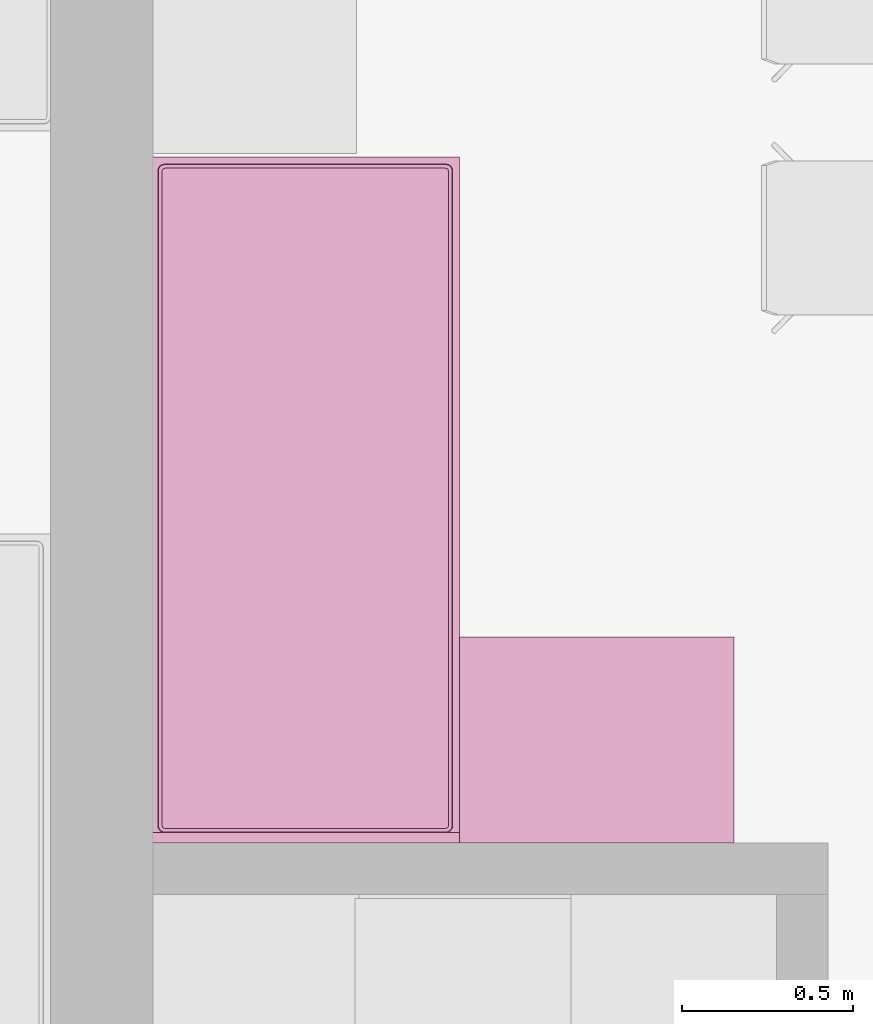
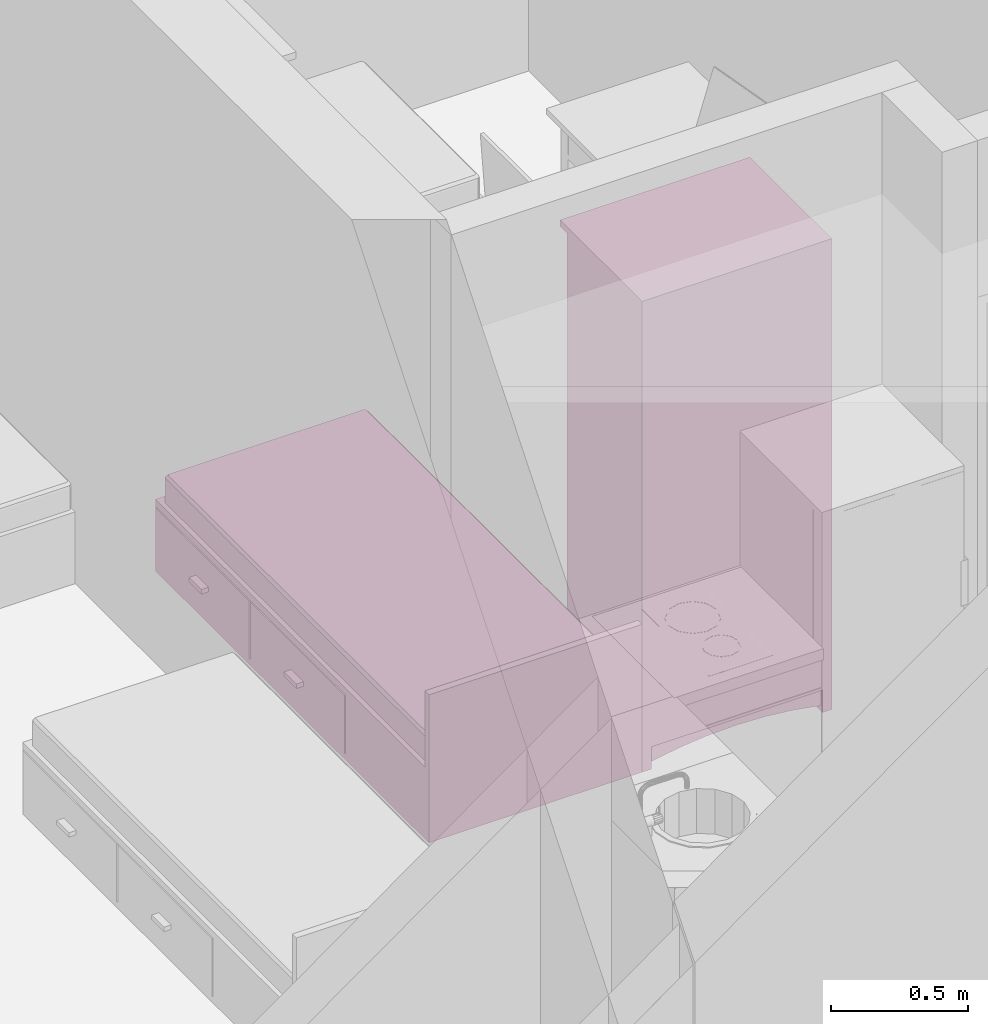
# One storey, part 71 of 165: 2 furnishings.
"""IFC2X3 building model written with IfcOpenShell, lengths in millimetres."""

import ifcopenshell
import ifcopenshell.guid

model = None  # the IFC model being written
_history = None  # IfcOwnerHistory: only IFC2X3 demands one
_inside = {}  # id of a spatial element -> (the spatial element, [elements in it])
_under = {}  # id of a project, library or spatial element -> (it, [spatial elements below it])
_declared = {}  # id of a project -> (the project, [libraries it declares])
_typed = {}  # id of a type object -> (the type object, [elements of that type])
_made_of = {}  # id of a material, layer set ... -> (it, [elements and type objects made of it])


def new_model(schema):
    """Start an empty IFC model of exactly this schema.

    Asked for "IFC4X3", IfcOpenShell would pick the latest addendum, in which some entities
    have other attributes; the version numbers below select the first issue.
    IFC2X3 requires an IfcOwnerHistory on every rooted entity: one is made here for all.
    """
    global model, _history
    if schema == "IFC4X3":
        model = ifcopenshell.file(schema_version=(4, 3, 0, 0))
    else:
        model = ifcopenshell.file(schema=schema)
    _inside.clear()
    _under.clear()
    _declared.clear()
    _typed.clear()
    _made_of.clear()
    _history = None
    if model.schema == "IFC2X3":
        org = make("IfcOrganization", Name="unknown")
        user = make(
            "IfcPersonAndOrganization",
            ThePerson=make("IfcPerson", FamilyName="unknown"),
            TheOrganization=org,
        )
        app = make(
            "IfcApplication",
            ApplicationDeveloper=org,
            Version="unknown",
            ApplicationFullName="unknown",
            ApplicationIdentifier="unknown",
        )
        _history = make(
            "IfcOwnerHistory",
            OwningUser=user,
            OwningApplication=app,
            ChangeAction="ADDED",
            CreationDate=0,
        )
    return model


def make(cls, **values):
    """One entity of the class cls with the attributes given. An attribute that is None is left unset."""
    return model.create_entity(
        cls, **{name: value for name, value in values.items() if value is not None}
    )


def entity(cls, *values):
    """Any entity or typed value of the class cls, its attributes in the order of the schema. None: left unset."""
    e = model.create_entity(cls)
    for i, value in enumerate(values):
        if value is not None:
            e[i] = value
    return e


def rooted(cls, **values):
    """An entity with a GlobalId (a new one), such as an element, a storey or a relation."""
    return make(cls, GlobalId=ifcopenshell.guid.new(), OwnerHistory=_history, **values)


def si_unit(unit_type, name, prefix=None):
    """IfcSIUnit, for example si_unit("LENGTHUNIT", "METRE", prefix="MILLI")."""
    return make("IfcSIUnit", UnitType=unit_type, Prefix=prefix, Name=name)


def converted_unit(unit_type, name, factor, base, dimensions=None, offset=None):
    """IfcConversionBasedUnit, such as the inch: factor (a typed value) times the base unit."""
    return make(
        "IfcConversionBasedUnit"
        if offset is None
        else "IfcConversionBasedUnitWithOffset",
        ConversionOffset=offset,
        Dimensions=None
        if dimensions is None
        else entity("IfcDimensionalExponents", *dimensions),
        UnitType=unit_type,
        Name=name,
        ConversionFactor=make(
            "IfcMeasureWithUnit", ValueComponent=factor, UnitComponent=base
        ),
    )


def money_unit(currency):
    """IfcMonetaryUnit."""
    return make("IfcMonetaryUnit", Currency=currency)


def assignment(units):
    """IfcUnitAssignment: the units of a project."""
    return None if units is None else make("IfcUnitAssignment", Units=units)


def point(xyz):
    """IfcCartesianPoint."""
    return None if xyz is None else make("IfcCartesianPoint", Coordinates=xyz)


def direction(xyz):
    """IfcDirection."""
    return None if xyz is None else make("IfcDirection", DirectionRatios=xyz)


def frame(location, z_axis=None, x_axis=None):
    """IfcAxis2Placement3D, a coordinate frame: its origin and axes. An axis left out is left unset."""
    return make(
        "IfcAxis2Placement3D",
        Location=point(location),
        Axis=direction(z_axis),
        RefDirection=direction(x_axis),
    )


def origin_with_axes():
    """The frame at (0, 0, 0) with the z axis (0, 0, 1) and the x axis (1, 0, 0) written out."""
    return frame((0.0, 0.0, 0.0), z_axis=(0.0, 0.0, 1.0), x_axis=(1.0, 0.0, 0.0))


def place(relative_to, where):
    """IfcLocalPlacement: puts the frame where relative to a parent placement (None: the world)."""
    return make(
        "IfcLocalPlacement", PlacementRelTo=relative_to, RelativePlacement=where
    )


def context(
    kind, dimensions, precision=None, world=None, true_north=None, identifier=None
):
    """IfcGeometricRepresentationContext, for example the 3D "Model" context."""
    return make(
        "IfcGeometricRepresentationContext",
        ContextIdentifier=identifier,
        ContextType=kind,
        CoordinateSpaceDimension=dimensions,
        Precision=precision,
        WorldCoordinateSystem=world,
        TrueNorth=true_north,
    )


def subcontext(parent, identifier, kind, view, scale=None):
    """IfcGeometricRepresentationSubContext, for example "Body" below "Model"."""
    return make(
        "IfcGeometricRepresentationSubContext",
        ContextIdentifier=identifier,
        ContextType=kind,
        ParentContext=parent,
        TargetScale=scale,
        TargetView=view,
    )


def project(units=None, contexts=None):
    """IfcProject with its units and contexts."""
    return rooted(
        "IfcProject",
        Name="project",
        RepresentationContexts=contexts,
        UnitsInContext=assignment(units),
    )


def spatial(cls, under=None, at=None, **own):
    """A site, building, storey or space (cls), placed at a placement, below another one or the project."""
    s = rooted(cls, ObjectPlacement=at, **own)
    if under is not None:
        _under.setdefault(under.id(), (under, []))[1].append(s)
    return s


def faces_of(points, faces, orient=None, outer=None):
    """IfcFace entities. A face is a list of loops; a loop is a list of indices into points, from 0.

    orient and outer hold one flag for each loop. By default every Orientation is true, the
    first loop of a face is its IfcFaceOuterBound and the others are IfcFaceBound.
    """
    made = []
    for i, loops in enumerate(faces):
        bounds = []
        for j, loop in enumerate(loops):
            is_outer = j == 0 if outer is None else outer[i][j]
            bounds.append(
                make(
                    "IfcFaceOuterBound" if is_outer else "IfcFaceBound",
                    Bound=make("IfcPolyLoop", Polygon=[points[k] for k in loop]),
                    Orientation=True if orient is None else orient[i][j],
                )
            )
        made.append(make("IfcFace", Bounds=bounds))
    return made


def faceted_brep(points, faces, orient=None, outer=None, voids=None):
    """IfcFacetedBrep: a solid bounded by flat faces; with voids (closed shells), ...WithVoids."""
    shared = [point(p) for p in points]
    hull = make("IfcClosedShell", CfsFaces=faces_of(shared, faces, orient, outer))
    if voids is None:
        return make("IfcFacetedBrep", Outer=hull)
    return make(
        "IfcFacetedBrepWithVoids",
        Outer=hull,
        Voids=[
            make(cls, CfsFaces=faces_of(shared, fs, o, b)) for cls, fs, o, b in voids
        ],
    )


def shape(context_of_items, identifier, shape_type, items):
    """IfcShapeRepresentation: the items that make up one representation, for example the "Body"."""
    return make(
        "IfcShapeRepresentation",
        ContextOfItems=context_of_items,
        RepresentationIdentifier=identifier,
        RepresentationType=shape_type,
        Items=items,
    )


def source(mapping_origin, context_of_items, identifier, shape_type, items):
    """IfcRepresentationMap: a shape defined once, which mapped items show again and again."""
    return make(
        "IfcRepresentationMap",
        MappingOrigin=mapping_origin,
        MappedRepresentation=shape(context_of_items, identifier, shape_type, items),
    )


def transform(
    local_origin,
    x_axis=None,
    y_axis=None,
    z_axis=None,
    scale=None,
    scale2=None,
    scale3=None,
    uniform=True,
):
    """IfcCartesianTransformationOperator3D, or its non-uniform kind. x_axis, y_axis, z_axis: its Axis1, 2, 3."""
    if uniform:
        return make(
            "IfcCartesianTransformationOperator3D",
            Axis1=direction(x_axis),
            Axis2=direction(y_axis),
            LocalOrigin=point(local_origin),
            Scale=scale,
            Axis3=direction(z_axis),
        )
    return make(
        "IfcCartesianTransformationOperator3DnonUniform",
        Axis1=direction(x_axis),
        Axis2=direction(y_axis),
        LocalOrigin=point(local_origin),
        Scale=scale,
        Axis3=direction(z_axis),
        Scale2=scale2,
        Scale3=scale3,
    )


def mapped(mapping_source, mapping_target):
    """IfcMappedItem: shows the shape of a source again, moved by a transform."""
    return make(
        "IfcMappedItem", MappingSource=mapping_source, MappingTarget=mapping_target
    )


def material(Name=None, Category=None):
    """IfcMaterial."""
    return make("IfcMaterial", Name=Name, Category=Category)


def material_list(materials):
    """IfcMaterialList."""
    return make("IfcMaterialList", Materials=materials)


def made_of(thing, what):
    """Note that an element or type object is made of a material, layer set ...; save() writes the relation."""
    if what is not None:
        _made_of.setdefault(what.id(), (what, []))[1].append(thing)
    return thing


def type_object(cls, material=None, **own):
    """A type object (cls), such as IfcWallType, which elements share."""
    return made_of(rooted(cls, **own), material)


def element(
    cls,
    number,
    at=None,
    inside=None,
    cuts=None,
    type_object=None,
    material=None,
    context=None,
    identifier="Body",
    shape_type=None,
    held_by="IfcProductDefinitionShape",
    body=None,
    shapes=None,
    **own,
):
    """One element of the class cls, such as IfcWall. Its Tag is "e" and its number.

    at: its placement. inside: the storey or other place that contains it. cuts: it is an
    opening in that element (IfcRelVoidsElement). A single representation is given by context,
    identifier, shape_type and body (its items); several are given by shapes. held_by: the class
    of the entity that holds the representations. save() writes the other relations.
    """
    e = rooted(cls, Tag="e%d" % number, ObjectPlacement=at, **own)
    if body is not None:
        shapes = [shape(context, identifier, shape_type, body)]
    if shapes is not None:
        e.Representation = make(held_by, Representations=shapes)
    if inside is not None:
        _inside.setdefault(inside.id(), (inside, []))[1].append(e)
    if cuts is not None:
        rooted(
            "IfcRelVoidsElement", RelatingBuildingElement=cuts, RelatedOpeningElement=e
        )
    if type_object is not None:
        _typed.setdefault(type_object.id(), (type_object, []))[1].append(e)
    return made_of(e, material)


def aggregate(whole, parts):
    """IfcRelAggregates: a whole, such as a stair, and the parts it consists of."""
    return rooted("IfcRelAggregates", RelatingObject=whole, RelatedObjects=parts)


def save(model, path):
    """Write the relations noted so far, then the file.

    IfcRelAggregates (storeys below a building ...), IfcRelContainedInSpatialStructure (elements
    in a storey), IfcRelDefinesByType, IfcRelAssociatesMaterial and IfcRelDeclares: one each for
    every whole, place, type object, material and project.
    """
    for whole, parts in _under.values():
        aggregate(whole, parts)
    for where, things in _inside.values():
        rooted(
            "IfcRelContainedInSpatialStructure",
            RelatedElements=things,
            RelatingStructure=where,
        )
    for kind, things in _typed.values():
        rooted("IfcRelDefinesByType", RelatedObjects=things, RelatingType=kind)
    for what, things in _made_of.values():
        rooted("IfcRelAssociatesMaterial", RelatedObjects=things, RelatingMaterial=what)
    for by, libraries in _declared.values():
        rooted("IfcRelDeclares", RelatingContext=by, RelatedDefinitions=libraries)
    model.write(path)


model = new_model("IFC2X3")

# Units and contexts
model_context = context("Model", 3, precision=1e-05, world=origin_with_axes(), true_north=direction((0.0, 1.0)))
body_context = subcontext(model_context, "Body", "Model", "MODEL_VIEW")
ifc_project = project(units=[si_unit("LENGTHUNIT", "METRE", prefix="MILLI"), si_unit("AREAUNIT", "SQUARE_METRE"), si_unit("VOLUMEUNIT", "CUBIC_METRE"), converted_unit("PLANEANGLEUNIT", "DEGREE", entity("IfcPlaneAngleMeasure", 0.0174532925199), si_unit("PLANEANGLEUNIT", "RADIAN"), dimensions=[0, 0, 0, 0, 0, 0, 0]), si_unit("SOLIDANGLEUNIT", "STERADIAN"), money_unit("USD"), converted_unit("TIMEUNIT", "Year", entity("IfcTimeMeasure", 31556926.0), si_unit("TIMEUNIT", "SECOND"), dimensions=[0, 0, 0, 0, 0, 0, 0]), si_unit("MASSUNIT", "GRAM"), si_unit("THERMODYNAMICTEMPERATUREUNIT", "DEGREE_CELSIUS"), si_unit("LUMINOUSINTENSITYUNIT", "LUMEN")], contexts=[model_context])

# Site, building, storey
site_placement = place(None, origin_with_axes())
site = spatial("IfcSite", under=ifc_project, at=site_placement, Name="Site", CompositionType="ELEMENT")
building_placement = place(site_placement, origin_with_axes())
building = spatial("IfcBuilding", under=site, at=building_placement, Name="Building", CompositionType="ELEMENT")
storey_placement = place(building_placement, frame((0.0, 0.0, 6300.0), z_axis=(0.0, 0.0, 1.0), x_axis=(1.0, 0.0, 0.0)))
storey = spatial("IfcBuildingStorey", under=building, at=storey_placement, Name="4KORRUS", CompositionType="ELEMENT", Elevation=6300.0)

# Furnishings
ifc_material = material(Name="Background")
ifc_material_list = material_list([ifc_material])
furnishing_element_type_1 = type_object("IfcFurnishingElementType", Name="Bed 19")
shared_shape_1 = source(origin_with_axes(), body_context, "Body", "Brep", [
    faceted_brep([(900.0, 1970.0, 0.0), (0.0, 1970.0, 0.0), (0.0, 2000.0, 0.0), (900.0, 2000.0, 0.0), (900.0, 1970.0, 660.0), (0.0, 1970.0, 660.0), (0.0, 2000.0, 660.0), (900.0, 2000.0, 660.0)], [[[0, 1, 2, 3]], [[1, 0, 4, 5]], [[2, 1, 5, 6]], [[3, 2, 6, 7]], [[0, 3, 7, 4]], [[5, 4, 7, 6]]]),
    faceted_brep([(900.0, 0.0, 0.0), (0.0, 0.0, 0.0), (0.0, 1970.0, 0.0), (900.0, 1970.0, 0.0), (900.0, 0.0, 320.0), (0.0, 0.0, 320.0), (0.0, 1970.0, 320.0), (900.0, 1970.0, 320.0)], [[[0, 1, 2, 3]], [[1, 0, 4, 5]], [[2, 1, 5, 6]], [[3, 2, 6, 7]], [[0, 3, 7, 4]], [[5, 4, 7, 6]]]),
    faceted_brep([(905.0, 10.0, 30.0), (900.0, 10.0, 30.0), (900.0, 695.0, 30.0), (905.0, 695.0, 30.0), (905.0, 10.0, 290.0), (900.0, 10.0, 290.0), (900.0, 695.0, 290.0), (905.0, 695.0, 290.0)], [[[0, 1, 2, 3]], [[1, 0, 4, 5]], [[2, 1, 5, 6]], [[3, 2, 6, 7]], [[0, 3, 7, 4]], [[5, 4, 7, 6]]]),
    faceted_brep([(935.0, 307.5, 150.0), (905.0, 307.5, 150.0), (905.0, 397.5, 150.0), (935.0, 397.5, 150.0), (935.0, 307.5, 170.0), (905.0, 307.5, 170.0), (905.0, 397.5, 170.0), (935.0, 397.5, 170.0)], [[[0, 1, 2, 3]], [[1, 0, 4, 5]], [[2, 1, 5, 6]], [[3, 2, 6, 7]], [[0, 3, 7, 4]], [[5, 4, 7, 6]]]),
    faceted_brep([(905.0, 705.0, 30.0), (900.0, 705.0, 30.0), (900.0, 1390.0, 30.0), (905.0, 1390.0, 30.0), (905.0, 705.0, 290.0), (900.0, 705.0, 290.0), (900.0, 1390.0, 290.0), (905.0, 1390.0, 290.0)], [[[0, 1, 2, 3]], [[1, 0, 4, 5]], [[2, 1, 5, 6]], [[3, 2, 6, 7]], [[0, 3, 7, 4]], [[5, 4, 7, 6]]]),
    faceted_brep([(935.0, 1002.5, 150.0), (905.0, 1002.5, 150.0), (905.0, 1092.5, 150.0), (935.0, 1092.5, 150.0), (935.0, 1002.5, 170.0), (905.0, 1002.5, 170.0), (905.0, 1092.5, 170.0), (935.0, 1092.5, 170.0)], [[[0, 1, 2, 3]], [[1, 0, 4, 5]], [[2, 1, 5, 6]], [[3, 2, 6, 7]], [[0, 3, 7, 4]], [[5, 4, 7, 6]]]),
    faceted_brep([(20.0, 40.0, 350.0), (20.0, 1950.0, 350.0), (21.522, 1957.654, 350.0), (25.858, 1964.142, 350.0), (32.346, 1968.478, 350.0), (40.0, 1970.0, 350.0), (860.0, 1970.0, 350.0), (867.654, 1968.478, 350.0), (874.142, 1964.142, 350.0), (878.478, 1957.654, 350.0), (880.0, 1950.0, 350.0), (880.0, 40.0, 350.0), (878.478, 32.346, 350.0), (874.142, 25.858, 350.0), (867.654, 21.522, 350.0), (860.0, 20.0, 350.0), (40.0, 20.0, 350.0), (32.346, 21.522, 350.0), (25.858, 25.858, 350.0), (21.522, 32.346, 350.0), (20.0, 40.0, 420.0), (20.0, 1950.0, 420.0), (21.522, 1957.654, 420.0), (25.858, 1964.142, 420.0), (32.346, 1968.478, 420.0), (40.0, 1970.0, 420.0), (860.0, 1970.0, 420.0), (867.654, 1968.478, 420.0), (874.142, 1964.142, 420.0), (878.478, 1957.654, 420.0), (880.0, 1950.0, 420.0), (880.0, 40.0, 420.0), (878.478, 32.346, 420.0), (874.142, 25.858, 420.0), (867.654, 21.522, 420.0), (860.0, 20.0, 420.0), (40.0, 20.0, 420.0), (32.346, 21.522, 420.0), (25.858, 25.858, 420.0), (21.522, 32.346, 420.0), (21.522, 40.15, 427.654), (21.522, 1949.85, 427.654), (22.956, 1957.06, 427.654), (26.955, 1963.045, 427.654), (32.94, 1967.044, 427.654), (40.15, 1968.478, 427.654), (859.85, 1968.478, 427.654), (867.06, 1967.044, 427.654), (873.045, 1963.045, 427.654), (877.044, 1957.06, 427.654), (878.478, 1949.85, 427.654), (878.478, 40.15, 427.654), (877.044, 32.94, 427.654), (873.045, 26.955, 427.654), (867.06, 22.956, 427.654), (859.85, 21.522, 427.654), (40.15, 21.522, 427.654), (32.94, 22.956, 427.654), (26.955, 26.955, 427.654), (22.956, 32.94, 427.654), (32.346, 41.216, 438.478), (32.346, 1948.784, 438.478), (33.152, 1952.836, 438.478), (34.759, 1955.241, 438.478), (37.164, 1956.848, 438.478), (41.216, 1957.654, 438.478), (858.784, 1957.654, 438.478), (862.836, 1956.848, 438.478), (865.241, 1955.241, 438.478), (866.848, 1952.836, 438.478), (867.654, 1948.784, 438.478), (867.654, 41.216, 438.478), (866.848, 37.164, 438.478), (865.241, 34.759, 438.478), (862.836, 33.152, 438.478), (858.784, 32.346, 438.478), (41.216, 32.346, 438.478), (37.164, 33.152, 438.478), (34.759, 34.759, 438.478), (33.152, 37.164, 438.478), (40.0, 41.97, 440.0), (40.0, 1948.03, 440.0), (40.327, 1949.673, 440.0), (40.0, 1950.0, 439.924), (41.97, 1950.0, 440.0), (858.03, 1950.0, 440.0), (859.673, 1949.673, 440.0), (860.0, 1950.0, 439.924), (860.0, 1948.03, 440.0), (860.0, 41.97, 440.0), (859.673, 40.327, 440.0), (860.0, 40.0, 439.924), (858.03, 40.0, 440.0), (41.97, 40.0, 440.0), (40.327, 40.327, 440.0), (40.0, 40.0, 439.924)], [[[0, 1, 2, 3, 4, 5, 6, 7, 8, 9, 10, 11, 12, 13, 14, 15, 16, 17, 18, 19]], [[1, 0, 20, 21]], [[2, 1, 21, 22]], [[3, 2, 22, 23]], [[4, 3, 23, 24]], [[5, 4, 24, 25]], [[6, 5, 25, 26]], [[7, 6, 26, 27]], [[8, 7, 27, 28]], [[9, 8, 28, 29]], [[10, 9, 29, 30]], [[11, 10, 30, 31]], [[12, 11, 31, 32]], [[13, 12, 32, 33]], [[14, 13, 33, 34]], [[15, 14, 34, 35]], [[16, 15, 35, 36]], [[17, 16, 36, 37]], [[18, 17, 37, 38]], [[19, 18, 38, 39]], [[0, 19, 39, 20]], [[21, 20, 40, 41]], [[22, 21, 41, 42]], [[23, 22, 42, 43]], [[24, 23, 43, 44]], [[25, 24, 44, 45]], [[26, 25, 45, 46]], [[27, 26, 46, 47]], [[28, 27, 47, 48]], [[29, 28, 48, 49]], [[30, 29, 49, 50]], [[31, 30, 50, 51]], [[32, 31, 51, 52]], [[33, 32, 52, 53]], [[34, 33, 53, 54]], [[35, 34, 54, 55]], [[36, 35, 55, 56]], [[37, 36, 56, 57]], [[38, 37, 57, 58]], [[39, 38, 58, 59]], [[20, 39, 59, 40]], [[41, 40, 60, 61]], [[42, 41, 61, 62]], [[43, 42, 62, 63]], [[44, 43, 63, 64]], [[45, 44, 64, 65]], [[46, 45, 65, 66]], [[47, 46, 66, 67]], [[48, 47, 67, 68]], [[49, 48, 68, 69]], [[50, 49, 69, 70]], [[51, 50, 70, 71]], [[52, 51, 71, 72]], [[53, 52, 72, 73]], [[54, 53, 73, 74]], [[55, 54, 74, 75]], [[56, 55, 75, 76]], [[57, 56, 76, 77]], [[58, 57, 77, 78]], [[59, 58, 78, 79]], [[40, 59, 79, 60]], [[61, 60, 80, 81]], [[62, 61, 81, 82, 83]], [[63, 62, 83]], [[64, 63, 83]], [[65, 64, 83, 82, 84]], [[66, 65, 84, 85]], [[67, 66, 85, 86, 87]], [[68, 67, 87]], [[69, 68, 87]], [[70, 69, 87, 86, 88]], [[71, 70, 88, 89]], [[72, 71, 89, 90, 91]], [[73, 72, 91]], [[74, 73, 91]], [[75, 74, 91, 90, 92]], [[76, 75, 92, 93]], [[77, 76, 93, 94, 95]], [[78, 77, 95]], [[79, 78, 95]], [[60, 79, 95, 94, 80]], [[81, 80, 94, 93, 92, 90, 89, 88, 86, 85, 84, 82]]]),
    faceted_brep([(20.0, 40.0, 350.0), (21.522, 32.346, 350.0), (25.858, 25.858, 350.0), (32.346, 21.522, 350.0), (40.0, 20.0, 350.0), (860.0, 20.0, 350.0), (867.654, 21.522, 350.0), (874.142, 25.858, 350.0), (878.478, 32.346, 350.0), (880.0, 40.0, 350.0), (880.0, 1950.0, 350.0), (878.478, 1957.654, 350.0), (874.142, 1964.142, 350.0), (867.654, 1968.478, 350.0), (860.0, 1970.0, 350.0), (40.0, 1970.0, 350.0), (32.346, 1968.478, 350.0), (25.858, 1964.142, 350.0), (21.522, 1957.654, 350.0), (20.0, 1950.0, 350.0), (20.0, 40.0, 320.0), (21.522, 32.346, 320.0), (25.858, 25.858, 320.0), (32.346, 21.522, 320.0), (40.0, 20.0, 320.0), (860.0, 20.0, 320.0), (867.654, 21.522, 320.0), (874.142, 25.858, 320.0), (878.478, 32.346, 320.0), (880.0, 40.0, 320.0), (880.0, 1950.0, 320.0), (878.478, 1957.654, 320.0), (874.142, 1964.142, 320.0), (867.654, 1968.478, 320.0), (860.0, 1970.0, 320.0), (40.0, 1970.0, 320.0), (32.346, 1968.478, 320.0), (25.858, 1964.142, 320.0), (21.522, 1957.654, 320.0), (20.0, 1950.0, 320.0)], [[[0, 1, 2, 3, 4, 5, 6, 7, 8, 9, 10, 11, 12, 13, 14, 15, 16, 17, 18, 19]], [[0, 20, 21, 1]], [[1, 21, 22, 2]], [[2, 22, 23, 3]], [[3, 23, 24, 4]], [[4, 24, 25, 5]], [[5, 25, 26, 6]], [[6, 26, 27, 7]], [[7, 27, 28, 8]], [[8, 28, 29, 9]], [[9, 29, 30, 10]], [[10, 30, 31, 11]], [[11, 31, 32, 12]], [[12, 32, 33, 13]], [[13, 33, 34, 14]], [[14, 34, 35, 15]], [[15, 35, 36, 16]], [[16, 36, 37, 17]], [[17, 37, 38, 18]], [[18, 38, 39, 19]], [[19, 39, 20, 0]], [[20, 39, 38, 37, 36, 35, 34, 33, 32, 31, 30, 29, 28, 27, 26, 25, 24, 23, 22, 21]]]),
])
furnishing_1_placement = place(storey_placement, frame((-41096.5850987, -7216.37850445, 0.0), z_axis=(0.0, 0.0, 1.0), x_axis=(-1.0, 0.0, 0.0)))
element("IfcFurnishingElement", 1, at=furnishing_1_placement, inside=storey, type_object=furnishing_element_type_1, material=ifc_material_list, Name="FU - 013", context=body_context, shape_type="MappedRepresentation", body=[
    mapped(shared_shape_1, transform((0.0, 0.0, 0.0))),
])
furnishing_element_type_2 = type_object("IfcFurnishingElementType", Name="Cupboard 19")
shared_shape_2 = source(origin_with_axes(), body_context, "Body", "Brep", [
    faceted_brep([(780.0, 600.0, 120.0), (780.0, 600.0, 2050.0), (780.0, 580.0, 2050.0), (780.0, 580.0, 120.0), (20.0, 600.0, 120.0), (20.0, 600.0, 2050.0), (20.0, 580.0, 2050.0), (20.0, 580.0, 120.0)], [[[0, 1, 2, 3]], [[4, 5, 1, 0]], [[1, 5, 6, 2]], [[3, 2, 6, 7]], [[0, 3, 7, 4]], [[7, 6, 5, 4]]]),
    faceted_brep([(0.0, 50.0, 100.0), (0.0, 600.0, 100.0), (20.0, 600.0, 100.0), (20.0, 50.0, 100.0), (0.0, 50.0, 2070.0), (0.0, 600.0, 2070.0), (20.0, 600.0, 2070.0), (20.0, 50.0, 2070.0)], [[[0, 1, 2, 3]], [[0, 4, 5, 1]], [[1, 5, 6, 2]], [[2, 6, 7, 3]], [[3, 7, 4, 0]], [[7, 6, 5, 4]]]),
    faceted_brep([(780.0, 50.0, 100.0), (780.0, 600.0, 100.0), (800.0, 600.0, 100.0), (800.0, 50.0, 100.0), (780.0, 50.0, 2070.0), (780.0, 600.0, 2070.0), (800.0, 600.0, 2070.0), (800.0, 50.0, 2070.0)], [[[0, 1, 2, 3]], [[0, 4, 5, 1]], [[1, 5, 6, 2]], [[2, 6, 7, 3]], [[3, 7, 4, 0]], [[7, 6, 5, 4]]]),
    faceted_brep([(20.0, 50.0, 100.0), (20.0, 600.0, 100.0), (780.0, 600.0, 100.0), (780.0, 50.0, 100.0), (20.0, 50.0, 120.0), (20.0, 600.0, 120.0), (780.0, 600.0, 120.0), (780.0, 50.0, 120.0)], [[[0, 1, 2, 3]], [[0, 4, 5, 1]], [[1, 5, 6, 2]], [[2, 6, 7, 3]], [[3, 7, 4, 0]], [[7, 6, 5, 4]]]),
    faceted_brep([(20.0, 50.0, 2050.0), (20.0, 600.0, 2050.0), (780.0, 600.0, 2050.0), (780.0, 50.0, 2050.0), (20.0, 50.0, 2070.0), (20.0, 600.0, 2070.0), (780.0, 600.0, 2070.0), (780.0, 50.0, 2070.0)], [[[0, 1, 2, 3]], [[0, 4, 5, 1]], [[1, 5, 6, 2]], [[2, 6, 7, 3]], [[3, 7, 4, 0]], [[7, 6, 5, 4]]]),
    faceted_brep([(0.0, 600.0, 2070.0), (0.0, 0.0, 2070.0), (0.0, 0.0, 2100.0), (0.0, 600.0, 2100.0), (800.0, 600.0, 2070.0), (800.0, 0.0, 2070.0), (800.0, 0.0, 2100.0), (800.0, 600.0, 2100.0)], [[[0, 1, 2, 3]], [[0, 4, 5, 1]], [[1, 5, 6, 2]], [[3, 2, 6, 7]], [[4, 0, 3, 7]], [[5, 4, 7, 6]]]),
    faceted_brep([(760.0, 590.0, 25.0), (760.0, 570.0, 25.0), (640.962, 570.0, 45.8), (640.962, 590.0, 45.8), (760.0, 590.0, 100.0), (760.0, 570.0, 100.0), (40.0, 570.0, 100.0), (40.0, 570.0, 25.0), (159.038, 570.0, 45.8), (279.23, 570.0, 58.32), (400.0, 570.0, 62.5), (520.77, 570.0, 58.32), (520.77, 590.0, 58.32), (400.0, 590.0, 62.5), (279.23, 590.0, 58.32), (159.038, 590.0, 45.8), (40.0, 590.0, 25.0), (40.0, 590.0, 100.0)], [[[0, 1, 2, 3]], [[4, 5, 1, 0]], [[1, 5, 6, 7, 8, 9, 10, 11, 2]], [[3, 2, 11, 12]], [[0, 3, 12, 13, 14, 15, 16, 17, 4]], [[17, 6, 5, 4]], [[16, 7, 6, 17]], [[15, 8, 7, 16]], [[14, 9, 8, 15]], [[13, 10, 9, 14]], [[12, 11, 10, 13]]]),
    faceted_brep([(760.0, 80.0, 25.0), (760.0, 60.0, 25.0), (640.962, 60.0, 45.8), (640.962, 80.0, 45.8), (760.0, 80.0, 100.0), (760.0, 60.0, 100.0), (40.0, 60.0, 100.0), (40.0, 60.0, 25.0), (159.038, 60.0, 45.8), (279.23, 60.0, 58.32), (400.0, 60.0, 62.5), (520.77, 60.0, 58.32), (520.77, 80.0, 58.32), (400.0, 80.0, 62.5), (279.23, 80.0, 58.32), (159.038, 80.0, 45.8), (40.0, 80.0, 25.0), (40.0, 80.0, 100.0)], [[[0, 1, 2, 3]], [[4, 5, 1, 0]], [[1, 5, 6, 7, 8, 9, 10, 11, 2]], [[3, 2, 11, 12]], [[0, 3, 12, 13, 14, 15, 16, 17, 4]], [[17, 6, 5, 4]], [[16, 7, 6, 17]], [[15, 8, 7, 16]], [[14, 9, 8, 15]], [[13, 10, 9, 14]], [[12, 11, 10, 13]]]),
    faceted_brep([(790.0, 90.0, 25.0), (770.0, 90.0, 25.0), (770.0, 141.266, 38.072), (790.0, 141.266, 38.072), (790.0, 90.0, 100.0), (770.0, 90.0, 100.0), (770.0, 560.0, 100.0), (770.0, 560.0, 25.0), (770.0, 508.734, 38.072), (770.0, 456.752, 47.92), (770.0, 404.257, 54.508), (770.0, 351.453, 57.808), (770.0, 298.547, 57.808), (770.0, 245.743, 54.508), (770.0, 193.248, 47.92), (790.0, 193.248, 47.92), (790.0, 245.743, 54.508), (790.0, 298.547, 57.808), (790.0, 351.453, 57.808), (790.0, 404.257, 54.508), (790.0, 456.752, 47.92), (790.0, 508.734, 38.072), (790.0, 560.0, 25.0), (790.0, 560.0, 100.0)], [[[0, 1, 2, 3]], [[4, 5, 1, 0]], [[1, 5, 6, 7, 8, 9, 10, 11, 12, 13, 14, 2]], [[3, 2, 14, 15]], [[0, 3, 15, 16, 17, 18, 19, 20, 21, 22, 23, 4]], [[23, 6, 5, 4]], [[22, 7, 6, 23]], [[21, 8, 7, 22]], [[20, 9, 8, 21]], [[19, 10, 9, 20]], [[18, 11, 10, 19]], [[17, 12, 11, 18]], [[16, 13, 12, 17]], [[15, 14, 13, 16]]]),
    faceted_brep([(30.0, 90.0, 25.0), (10.0, 90.0, 25.0), (10.0, 141.266, 38.072), (30.0, 141.266, 38.072), (30.0, 90.0, 100.0), (10.0, 90.0, 100.0), (10.0, 560.0, 100.0), (10.0, 560.0, 25.0), (10.0, 508.734, 38.072), (10.0, 456.752, 47.92), (10.0, 404.257, 54.508), (10.0, 351.453, 57.808), (10.0, 298.547, 57.808), (10.0, 245.743, 54.508), (10.0, 193.248, 47.92), (30.0, 193.248, 47.92), (30.0, 245.743, 54.508), (30.0, 298.547, 57.808), (30.0, 351.453, 57.808), (30.0, 404.257, 54.508), (30.0, 456.752, 47.92), (30.0, 508.734, 38.072), (30.0, 560.0, 25.0), (30.0, 560.0, 100.0)], [[[0, 1, 2, 3]], [[4, 5, 1, 0]], [[1, 5, 6, 7, 8, 9, 10, 11, 12, 13, 14, 2]], [[3, 2, 14, 15]], [[0, 3, 15, 16, 17, 18, 19, 20, 21, 22, 23, 4]], [[23, 6, 5, 4]], [[22, 7, 6, 23]], [[21, 8, 7, 22]], [[20, 9, 8, 21]], [[19, 10, 9, 20]], [[18, 11, 10, 19]], [[17, 12, 11, 18]], [[16, 13, 12, 17]], [[15, 14, 13, 16]]]),
    faceted_brep([(760.0, 560.0, 0.0), (760.0, 560.0, 100.0), (760.0, 600.0, 100.0), (760.0, 600.0, 0.0), (800.0, 560.0, 0.0), (800.0, 560.0, 100.0), (800.0, 600.0, 100.0), (800.0, 600.0, 0.0)], [[[0, 1, 2, 3]], [[4, 5, 1, 0]], [[1, 5, 6, 2]], [[3, 2, 6, 7]], [[0, 3, 7, 4]], [[7, 6, 5, 4]]]),
    faceted_brep([(0.0, 560.0, 0.0), (0.0, 560.0, 100.0), (0.0, 600.0, 100.0), (0.0, 600.0, 0.0), (40.0, 560.0, 0.0), (40.0, 560.0, 100.0), (40.0, 600.0, 100.0), (40.0, 600.0, 0.0)], [[[0, 1, 2, 3]], [[4, 5, 1, 0]], [[1, 5, 6, 2]], [[3, 2, 6, 7]], [[0, 3, 7, 4]], [[7, 6, 5, 4]]]),
    faceted_brep([(760.0, 50.0, 0.0), (760.0, 50.0, 100.0), (760.0, 90.0, 100.0), (760.0, 90.0, 0.0), (800.0, 50.0, 0.0), (800.0, 50.0, 100.0), (800.0, 90.0, 100.0), (800.0, 90.0, 0.0)], [[[0, 1, 2, 3]], [[4, 5, 1, 0]], [[1, 5, 6, 2]], [[3, 2, 6, 7]], [[0, 3, 7, 4]], [[7, 6, 5, 4]]]),
    faceted_brep([(0.0, 50.0, 0.0), (0.0, 50.0, 100.0), (0.0, 90.0, 100.0), (0.0, 90.0, 0.0), (40.0, 50.0, 0.0), (40.0, 50.0, 100.0), (40.0, 90.0, 100.0), (40.0, 90.0, 0.0)], [[[0, 1, 2, 3]], [[4, 5, 1, 0]], [[1, 5, 6, 2]], [[3, 2, 6, 7]], [[0, 3, 7, 4]], [[7, 6, 5, 4]]]),
    faceted_brep([(780.0, 580.0, 587.5), (780.0, 580.0, 607.5), (780.0, 50.0, 607.5), (780.0, 50.0, 587.5), (20.0, 580.0, 587.5), (20.0, 580.0, 607.5), (20.0, 50.0, 607.5), (20.0, 50.0, 587.5)], [[[0, 1, 2, 3]], [[4, 5, 1, 0]], [[1, 5, 6, 2]], [[3, 2, 6, 7]], [[0, 3, 7, 4]], [[7, 6, 5, 4]]]),
    faceted_brep([(780.0, 580.0, 1075.0), (780.0, 580.0, 1095.0), (780.0, 50.0, 1095.0), (780.0, 50.0, 1075.0), (20.0, 580.0, 1075.0), (20.0, 580.0, 1095.0), (20.0, 50.0, 1095.0), (20.0, 50.0, 1075.0)], [[[0, 1, 2, 3]], [[4, 5, 1, 0]], [[1, 5, 6, 2]], [[3, 2, 6, 7]], [[0, 3, 7, 4]], [[7, 6, 5, 4]]]),
    faceted_brep([(780.0, 580.0, 1562.5), (780.0, 580.0, 1582.5), (780.0, 50.0, 1582.5), (780.0, 50.0, 1562.5), (20.0, 580.0, 1562.5), (20.0, 580.0, 1582.5), (20.0, 50.0, 1582.5), (20.0, 50.0, 1562.5)], [[[0, 1, 2, 3]], [[4, 5, 1, 0]], [[1, 5, 6, 2]], [[3, 2, 6, 7]], [[0, 3, 7, 4]], [[7, 6, 5, 4]]]),
    faceted_brep([(789.5, 50.0, 110.5), (400.5, 50.0, 110.5), (400.5, 50.0, 2059.5), (789.5, 50.0, 2059.5), (789.5, 40.0, 110.5), (400.5, 40.0, 110.5), (400.5, 40.0, 2059.5), (789.5, 40.0, 2059.5), (779.5, 30.0, 120.5), (410.5, 30.0, 120.5), (410.5, 30.0, 2049.5), (779.5, 30.0, 2049.5)], [[[0, 1, 2, 3]], [[0, 4, 5, 1]], [[1, 5, 6, 2]], [[2, 6, 7, 3]], [[3, 7, 4, 0]], [[4, 8, 9, 5]], [[5, 9, 10, 6]], [[6, 10, 11, 7]], [[7, 11, 8, 4]], [[10, 9, 8, 11]]]),
    faceted_brep([(399.5, 50.0, 110.5), (10.5, 50.0, 110.5), (10.5, 50.0, 2059.5), (399.5, 50.0, 2059.5), (399.5, 40.0, 110.5), (10.5, 40.0, 110.5), (10.5, 40.0, 2059.5), (399.5, 40.0, 2059.5), (389.5, 30.0, 120.5), (20.5, 30.0, 120.5), (20.5, 30.0, 2049.5), (389.5, 30.0, 2049.5)], [[[0, 1, 2, 3]], [[0, 4, 5, 1]], [[1, 5, 6, 2]], [[2, 6, 7, 3]], [[3, 7, 4, 0]], [[4, 8, 9, 5]], [[5, 9, 10, 6]], [[6, 10, 11, 7]], [[7, 11, 8, 4]], [[10, 9, 8, 11]]]),
    faceted_brep([(339.608, 30.0, 954.0), (338.0, 30.0, 960.0), (339.608, 30.0, 966.0), (344.0, 30.0, 970.392), (350.0, 30.0, 972.0), (356.0, 30.0, 970.392), (360.392, 30.0, 966.0), (362.0, 30.0, 960.0), (360.392, 30.0, 954.0), (356.0, 30.0, 949.608), (350.0, 30.0, 948.0), (344.0, 30.0, 949.608), (339.608, 5.0, 954.0), (338.0, 5.0, 960.0), (339.608, 5.0, 966.0), (344.0, 5.0, 970.392), (350.0, 5.0, 972.0), (356.0, 5.0, 970.392), (360.392, 5.0, 966.0), (362.0, 5.0, 960.0), (360.392, 5.0, 954.0), (356.0, 5.0, 949.608), (350.0, 5.0, 948.0), (344.0, 5.0, 949.608)], [[[0, 1, 2, 3, 4, 5, 6, 7, 8, 9, 10, 11]], [[0, 12, 13, 1]], [[1, 13, 14, 2]], [[2, 14, 15, 3]], [[3, 15, 16, 4]], [[4, 16, 17, 5]], [[5, 17, 18, 6]], [[6, 18, 19, 7]], [[7, 19, 20, 8]], [[8, 20, 21, 9]], [[9, 21, 22, 10]], [[10, 22, 23, 11]], [[11, 23, 12, 0]], [[12, 23, 22, 21, 20, 19, 18, 17, 16, 15, 14, 13]]]),
    faceted_brep([(460.392, 30.0, 954.0), (456.0, 30.0, 949.608), (450.0, 30.0, 948.0), (444.0, 30.0, 949.608), (439.608, 30.0, 954.0), (438.0, 30.0, 960.0), (439.608, 30.0, 966.0), (444.0, 30.0, 970.392), (450.0, 30.0, 972.0), (456.0, 30.0, 970.392), (460.392, 30.0, 966.0), (462.0, 30.0, 960.0), (460.392, 5.0, 954.0), (456.0, 5.0, 949.608), (450.0, 5.0, 948.0), (444.0, 5.0, 949.608), (439.608, 5.0, 954.0), (438.0, 5.0, 960.0), (439.608, 5.0, 966.0), (444.0, 5.0, 970.392), (450.0, 5.0, 972.0), (456.0, 5.0, 970.392), (460.392, 5.0, 966.0), (462.0, 5.0, 960.0)], [[[0, 1, 2, 3, 4, 5, 6, 7, 8, 9, 10, 11]], [[1, 0, 12, 13]], [[2, 1, 13, 14]], [[3, 2, 14, 15]], [[4, 3, 15, 16]], [[5, 4, 16, 17]], [[6, 5, 17, 18]], [[7, 6, 18, 19]], [[8, 7, 19, 20]], [[9, 8, 20, 21]], [[10, 9, 21, 22]], [[11, 10, 22, 23]], [[0, 11, 23, 12]], [[12, 23, 22, 21, 20, 19, 18, 17, 16, 15, 14, 13]]]),
])
furnishing_2_placement = place(storey_placement, frame((-40296.5850987, -8616.37850445, 0.0), z_axis=(0.0, 0.0, 1.0), x_axis=(-1.0, 0.0, 0.0)))
element("IfcFurnishingElement", 2, at=furnishing_2_placement, inside=storey, type_object=furnishing_element_type_2, material=ifc_material_list, Name="FU - 014", context=body_context, shape_type="MappedRepresentation", body=[
    mapped(shared_shape_2, transform((0.0, 0.0, 0.0))),
])

save(model, "model.ifc")
